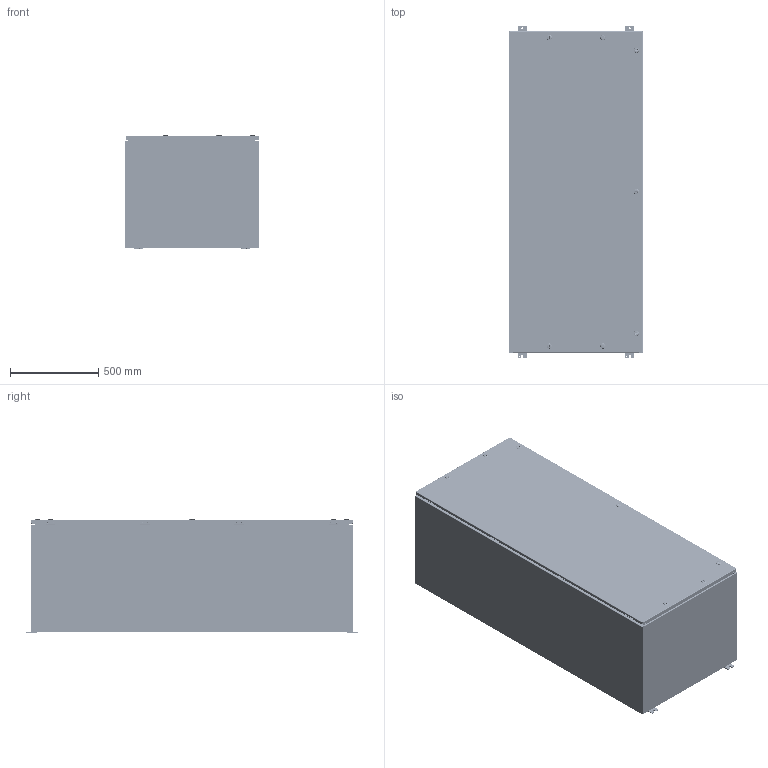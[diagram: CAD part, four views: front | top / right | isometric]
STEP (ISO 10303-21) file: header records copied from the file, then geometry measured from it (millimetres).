
FILE_DESCRIPTION((''),'2;1');
FILE_NAME('C:\Vault_Workspace\Inventor_Dwg\BoxCad\Result\5412ESPR723024\e-mail\3D\5412ESPR723024.stp','2014-05-08T06:59:59',(''),(''),'Autodesk Inventor 2012','Autodesk Inventor 2012','');
FILE_SCHEMA(('AUTOMOTIVE_DESIGN { 1 0 10303 214 1 1 1 1 }'));
Length unit declared in the file: inch
Products named in the file (51): 5412ESPR723024; 5412ESPR723024B; 5412ESPR723024B-P; 5412ESPR723024RS-P; 5412ESPR723024T-P; 5412ESPR723024BT-P; STK-Q-16080; STK-Q-16005; STK-Q-71000; STK-P-02400S; STK-Q-07610; 881SP7230; 881SP7230-P; STK-P-02401S; STK-Q-07310; 5412ESPR723024C; 5412ESPR723024C-P; 5412ESPR723024G; STK-Q-33105; STK-A-33005PR-1; STK-Q-33005PR; STK-Q-90260; STK-Q-40010-1; STK-Q-40010-A; STK-Q-40010-B; STK-A-33005PR-2; STK-A-33005PR-3; STK-A-33005PR-4; STK-A-880SCQ4-SL-1; STK-Q-78110; STK-Q-78120; STK-Q-78145; STK-Q-03200; STK-Q-78125; STK-Q-78140; STK-Q-90390; STK-Q-78160; STK-A-880SCQ4-SL-2; STK-A-880SCQ4-SL-3; STK-A-880SCQ4-SL-5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
Assembly tree (141 placements, depth 5):
  5412ESPR723024
    5412ESPR723024B
      5412ESPR723024B-P
      5412ESPR723024RS-P
      5412ESPR723024T-P
      5412ESPR723024BT-P
      STK-Q-16080
      STK-Q-16005  x6
      STK-Q-71000  x4
      STK-P-02400S
    STK-Q-07610  x6
    881SP7230
      881SP7230-P
      STK-P-02401S
    STK-Q-07310  x6
    5412ESPR723024C
      5412ESPR723024C-P
      5412ESPR723024G
      STK-Q-33105  x4
      STK-A-33005PR-1
        STK-Q-33005PR
        STK-Q-90260  x2
        STK-Q-40010-1
          STK-Q-40010-A
          STK-Q-40010-B
      STK-A-33005PR-2
        STK-Q-33005PR
        STK-Q-90260  x2
        STK-Q-40010-1
          STK-Q-40010-A
          STK-Q-40010-B
      STK-A-33005PR-3
        STK-Q-33005PR
        STK-Q-90260  x2
        STK-Q-40010-1
          STK-Q-40010-A
          STK-Q-40010-B
      STK-A-33005PR-4
        STK-Q-33005PR
        STK-Q-90260  x2
        STK-Q-40010-1
          STK-Q-40010-A
          STK-Q-40010-B
      STK-A-880SCQ4-SL-1
        STK-Q-78110
        STK-Q-78120
        STK-Q-78145
        STK-Q-03200
        STK-Q-78125
        STK-Q-78140
        STK-Q-90390
        STK-Q-78160
      STK-A-880SCQ4-SL-2
        STK-Q-78110
        STK-Q-78120
        STK-Q-78145
        STK-Q-03200
        STK-Q-78125
        STK-Q-78140
        STK-Q-90390
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Bounding box: 762 x 1885.96 x 647.67 mm (x, y, z)
Volume: 15052911.8 mm3; surface area: 15573854 mm2
Topology: 122 solids, 123 shells, 12841 faces, 34016 edges, 21393 vertices
Faces by surface type: plane 5031, bspline 3706, cylinder 2911, torus 651, cone 320, sphere 222
Full cylindrical faces by diameter (mm): 0.75 x9, 0.762 x13, 2.375 x8, 4.5 x1, 4.75 x8, 5 x8, 5.1 x70, 5.105 x11, 5.156 x4, 5.5 x4, 6.3 x8, 6.65 x6, 7 x8, 7.366 x11, 7.468 x2, 7.9 x6, 8 x14, 9.6 x7, 9.634 x1, 10 x7, 10.5 x4, 11.1 x4, 12.7 x3, 12.8 x7, 13 x7, 15.9 x7, 16 x7, 18.2 x6, 19.7 x7, 29 x7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
Entity records: 127978 total; most frequent: CARTESIAN_POINT 55215, ORIENTED_EDGE 16602, DIRECTION 11645, EDGE_CURVE 8301, VERTEX_POINT 5369, AXIS2_PLACEMENT_3D 3980, VECTOR 3685, LINE 3685
